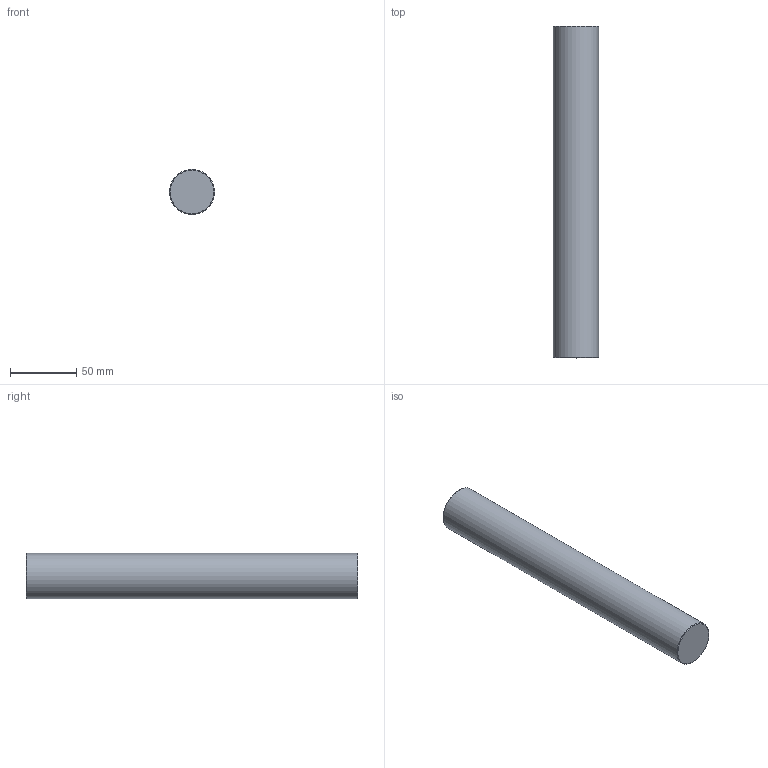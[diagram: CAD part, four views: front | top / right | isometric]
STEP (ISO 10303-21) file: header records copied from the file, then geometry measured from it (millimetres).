
FILE_DESCRIPTION(/* description */ (''),/* implementation_level */ '2;1');
FILE_NAME(/* name */ 'BM02-34D-250L.step',/* time_stamp */ '2023-10-24T13:56:26+09:00',/* author */ (''),/* organization */ (''),/* preprocessor_version */ 'ST-DEVELOPER v20',/* originating_system */ 'Autodesk Translation Framework v12.14.0.127',/* authorisation */ '');
FILE_SCHEMA (('AUTOMOTIVE_DESIGN { 1 0 10303 214 3 1 1 }'));
Length unit declared in the file: millimetre
Products named in the file (1): BM02-34D-250L
Bounding box: 34 x 250 x 34 mm (x, y, z)
Volume: 226048.5 mm3; surface area: 28867.4 mm2
Topology: 1 solids, 1 shells, 7 faces, 12 edges, 7 vertices
Faces by surface type: cone 3, cylinder 2, plane 2
Full cylindrical faces by diameter (mm): 8.526 x1, 34 x1
Entity records: 203 total; most frequent: DIRECTION 33, CARTESIAN_POINT 26, ORIENTED_EDGE 22, AXIS2_PLACEMENT_3D 14, EDGE_CURVE 11, EDGE_LOOP 8, FACE_OUTER_BOUND 7, VERTEX_POINT 7
